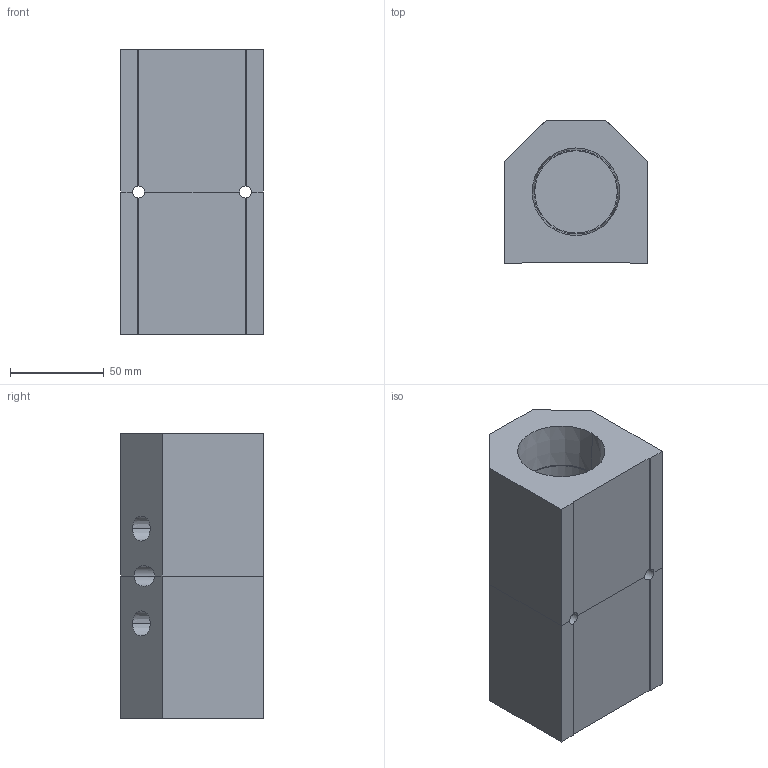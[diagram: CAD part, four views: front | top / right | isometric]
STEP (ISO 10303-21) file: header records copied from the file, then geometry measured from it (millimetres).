
FILE_DESCRIPTION (( 'STEP AP214' ), '1' );
FILE_NAME ('ALM2BCD-N4N24-152RB.step', '2022-02-07T07:51:57', ( '' ), ( '' ), 'SwSTEP 2.0', 'SolidWorks 2020', '' );
FILE_SCHEMA (( 'AUTOMOTIVE_DESIGN' ));
Length unit declared in the file: millimetre
Products named in the file (1): ALM2BCD-N4N24-152RB
Bounding box: 76.2 x 76.2 x 152 mm (x, y, z)
Volume: 550495.2 mm3; surface area: 87753.6 mm2
Topology: 2 solids, 2 shells, 353 faces, 931 edges, 620 vertices
Faces by surface type: plane 253, bspline 68, cylinder 16, cone 16
Entity records: 19016 total; most frequent: CARTESIAN_POINT 7455, ORIENTED_EDGE 1862, DIRECTION 1393, EDGE_CURVE 931, VECTOR 725, LINE 725, VERTEX_POINT 620, EDGE_LOOP 403
